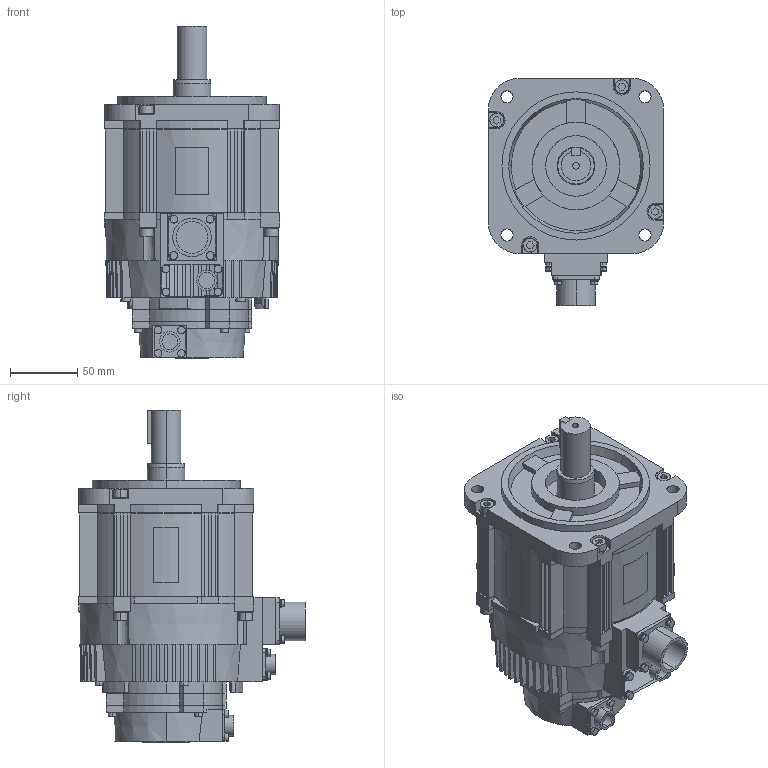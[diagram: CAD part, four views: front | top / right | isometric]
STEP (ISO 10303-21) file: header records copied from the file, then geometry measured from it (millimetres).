
FILE_DESCRIPTION (( 'STEP AP203' ), '1' );
FILE_NAME ('sgmgv_13__a6c.STEP', '2009-02-06T06:15:50', ( 'T' ), ( 'T' ), 'SwSTEP 2.0', 'SolidWorks 2006052', '' );
FILE_SCHEMA (( 'CONFIG_CONTROL_DESIGN' ));
Length unit declared in the file: millimetre
Products named in the file (3): sgmgv_13__a6c_base; sgmgv_13__a6c_key; sgmgv_13__a6c
Assembly tree (2 placements, depth 2):
  sgmgv_13__a6c
    sgmgv_13__a6c_key
    sgmgv_13__a6c_base
Bounding box: 130 x 168.49 x 246.6 mm (x, y, z)
Volume: 2263518.2 mm3; surface area: 168354.2 mm2
Topology: 2 solids, 2 shells, 942 faces, 2404 edges, 1559 vertices
Faces by surface type: plane 589, cylinder 253, cone 100
Entity records: 29392 total; most frequent: CARTESIAN_POINT 5877, DIRECTION 4901, ORIENTED_EDGE 4808, EDGE_CURVE 2404, AXIS2_PLACEMENT_3D 1729, VERTEX_POINT 1559, VECTOR 1443, LINE 1443
